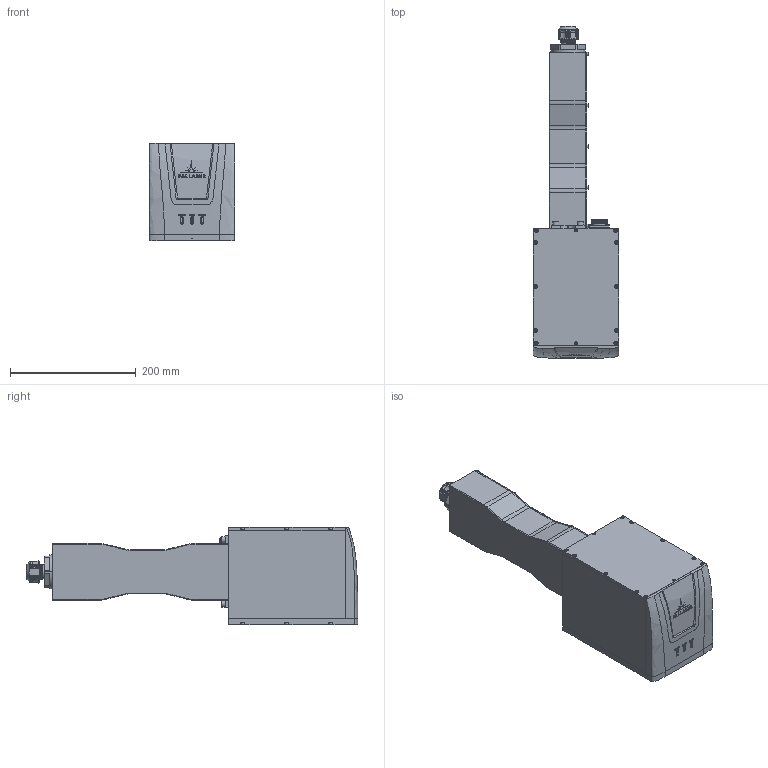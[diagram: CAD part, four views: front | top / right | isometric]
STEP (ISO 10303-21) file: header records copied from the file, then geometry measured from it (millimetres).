
FILE_DESCRIPTION(/* description */ (''),/* implementation_level */ '2;1');
FILE_NAME(/* name */ '',/* time_stamp */ '2024-10-21T13:07:25+09:00',/* author */ (''),/* organization */ (''),/* preprocessor_version */ 'ST-DEVELOPER v20',/* originating_system */ 'Autodesk Translation Framework v13.20.0.188',/* authorisation */ '');
FILE_SCHEMA (('AUTOMOTIVE_DESIGN { 1 0 10303 214 3 1 1 }'));
Products named in the file (2): 外観確認用　ヘッド-ASSY; PL2000F_ヘッド
Assembly tree (1 placements, depth 2):
  外観確認用　ヘッド-ASSY
    PL2000F_ヘッド
Bounding box: 136 x 527.7 x 155 mm (x, y, z)
Surface area: 271143 mm2 (no closed solid volume)
Topology: 0 solids, 2007 shells, 2027 faces, 9609 edges, 9364 vertices
Faces by surface type: plane 1176, cylinder 359, bspline 273, cone 167, torus 44, sphere 8
Full cylindrical faces by diameter (mm): 3.8 x2, 4 x2, 4.5 x3, 4.8 x2, 5 x18, 5.5 x39, 6 x4, 6.5 x5, 9 x2, 10 x4, 10.5 x2, 17 x1, 18.6 x1, 24.2 x1, 24.617 x10, 25.7 x10, 80 x1
Entity records: 132326 total; most frequent: CARTESIAN_POINT 55614, DIRECTION 14255, ORIENTED_EDGE 9785, EDGE_CURVE 9542, VERTEX_POINT 9364, LINE 5387, VECTOR 5387, AXIS2_PLACEMENT_3D 4434
